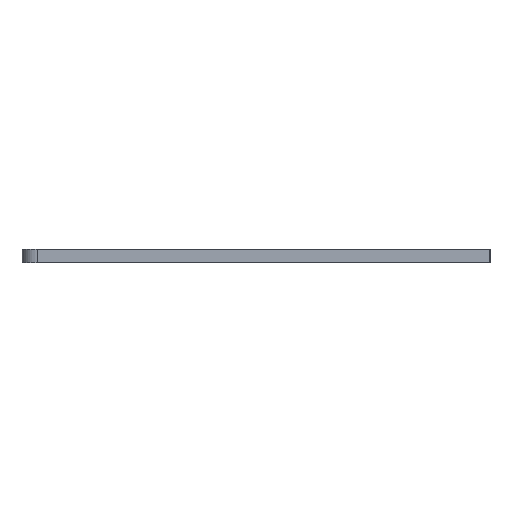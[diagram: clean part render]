
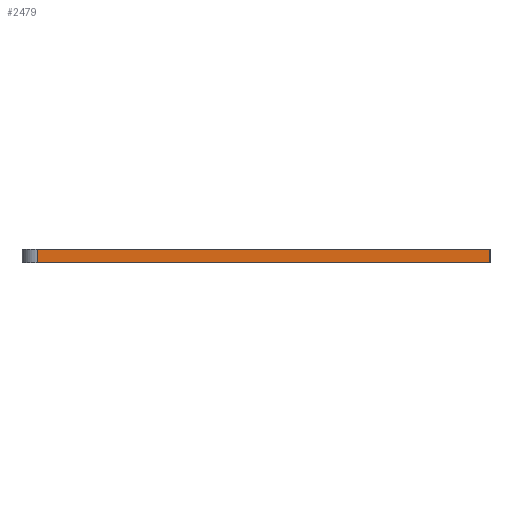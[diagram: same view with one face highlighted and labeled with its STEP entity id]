
A CAD part, left-side view. The second image highlights one B-rep face of the part: STEP entity #2479.
In plain terms, the highlighted planar face has unit normal (-1, 0, 0).
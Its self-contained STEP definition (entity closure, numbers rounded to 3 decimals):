
#21 = EDGE_CURVE('',#22,#24,#26,.T.);
#22 = VERTEX_POINT('',#23);
#23 = CARTESIAN_POINT('',(0.,190.2,52.));
#24 = VERTEX_POINT('',#25);
#25 = CARTESIAN_POINT('',(0.,277.,52.));
#26 = SURFACE_CURVE('',#27,(#31,#43),.PCURVE_S1.);
#27 = LINE('',#28,#29);
#28 = CARTESIAN_POINT('',(0.,0.,52.));
#29 = VECTOR('',#30,1.);
#30 = DIRECTION('',(0.,1.,0.));
#31 = PCURVE('',#32,#37);
#32 = PLANE('',#33);
#33 = AXIS2_PLACEMENT_3D('',#34,#35,#36);
#34 = CARTESIAN_POINT('',(0.,0.,52.));
#35 = DIRECTION('',(0.,0.,1.));
#36 = DIRECTION('',(1.,0.,0.));
#37 = DEFINITIONAL_REPRESENTATION('',(#38),#42);
#38 = LINE('',#39,#40);
#39 = CARTESIAN_POINT('',(0.,0.));
#40 = VECTOR('',#41,1.);
#41 = DIRECTION('',(0.,1.));
#42 = ( GEOMETRIC_REPRESENTATION_CONTEXT(2) 
PARAMETRIC_REPRESENTATION_CONTEXT() REPRESENTATION_CONTEXT('2D SPACE',''
  ) );
#43 = PCURVE('',#44,#49);
#44 = PLANE('',#45);
#45 = AXIS2_PLACEMENT_3D('',#46,#47,#48);
#46 = CARTESIAN_POINT('',(0.,0.,49.5));
#47 = DIRECTION('',(1.,0.,0.));
#48 = DIRECTION('',(0.,0.,1.));
#49 = DEFINITIONAL_REPRESENTATION('',(#50),#54);
#50 = LINE('',#51,#52);
#51 = CARTESIAN_POINT('',(2.5,0.));
#52 = VECTOR('',#53,1.);
#53 = DIRECTION('',(0.,-1.));
#54 = ( GEOMETRIC_REPRESENTATION_CONTEXT(2) 
PARAMETRIC_REPRESENTATION_CONTEXT() REPRESENTATION_CONTEXT('2D SPACE',''
  ) );
#71 = PLANE('',#72);
#72 = AXIS2_PLACEMENT_3D('',#73,#74,#75);
#73 = CARTESIAN_POINT('',(-1.,190.2,49.3));
#74 = DIRECTION('',(0.,1.,0.));
#75 = DIRECTION('',(0.,0.,1.));
#186 = CYLINDRICAL_SURFACE('',#187,3.);
#187 = AXIS2_PLACEMENT_3D('',#188,#189,#190);
#188 = CARTESIAN_POINT('',(3.,277.,49.5));
#189 = DIRECTION('',(0.,0.,1.));
#190 = DIRECTION('',(-1.,-0.,0.));
#2479 = ADVANCED_FACE('',(#2480),#44,.F.);
#2480 = FACE_BOUND('',#2481,.F.);
#2481 = EDGE_LOOP('',(#2482,#2503,#2531,#2552));
#2482 = ORIENTED_EDGE('',*,*,#2483,.F.);
#2483 = EDGE_CURVE('',#2484,#22,#2486,.T.);
#2484 = VERTEX_POINT('',#2485);
#2485 = CARTESIAN_POINT('',(0.,190.2,49.5));
#2486 = SURFACE_CURVE('',#2487,(#2491,#2497),.PCURVE_S1.);
#2487 = LINE('',#2488,#2489);
#2488 = CARTESIAN_POINT('',(0.,190.2,49.4));
#2489 = VECTOR('',#2490,1.);
#2490 = DIRECTION('',(0.,0.,1.));
#2491 = PCURVE('',#44,#2492);
#2492 = DEFINITIONAL_REPRESENTATION('',(#2493),#2496);
#2493 = B_SPLINE_CURVE_WITH_KNOTS('',1,(#2494,#2495),.UNSPECIFIED.,.F.,
  .F.,(2,2),(0.1,2.6),.PIECEWISE_BEZIER_KNOTS.);
#2494 = CARTESIAN_POINT('',(0.,-190.2));
#2495 = CARTESIAN_POINT('',(2.5,-190.2));
#2496 = ( GEOMETRIC_REPRESENTATION_CONTEXT(2) 
PARAMETRIC_REPRESENTATION_CONTEXT() REPRESENTATION_CONTEXT('2D SPACE',''
  ) );
#2497 = PCURVE('',#71,#2498);
#2498 = DEFINITIONAL_REPRESENTATION('',(#2499),#2502);
#2499 = B_SPLINE_CURVE_WITH_KNOTS('',1,(#2500,#2501),.UNSPECIFIED.,.F.,
  .F.,(2,2),(0.1,2.6),.PIECEWISE_BEZIER_KNOTS.);
#2500 = CARTESIAN_POINT('',(0.2,1.));
#2501 = CARTESIAN_POINT('',(2.7,1.));
#2502 = ( GEOMETRIC_REPRESENTATION_CONTEXT(2) 
PARAMETRIC_REPRESENTATION_CONTEXT() REPRESENTATION_CONTEXT('2D SPACE',''
  ) );
#2503 = ORIENTED_EDGE('',*,*,#2504,.T.);
#2504 = EDGE_CURVE('',#2484,#2505,#2507,.T.);
#2505 = VERTEX_POINT('',#2506);
#2506 = CARTESIAN_POINT('',(0.,277.,49.5));
#2507 = SURFACE_CURVE('',#2508,(#2512,#2519),.PCURVE_S1.);
#2508 = LINE('',#2509,#2510);
#2509 = CARTESIAN_POINT('',(0.,0.,49.5));
#2510 = VECTOR('',#2511,1.);
#2511 = DIRECTION('',(0.,1.,0.));
#2512 = PCURVE('',#44,#2513);
#2513 = DEFINITIONAL_REPRESENTATION('',(#2514),#2518);
#2514 = LINE('',#2515,#2516);
#2515 = CARTESIAN_POINT('',(0.,0.));
#2516 = VECTOR('',#2517,1.);
#2517 = DIRECTION('',(0.,-1.));
#2518 = ( GEOMETRIC_REPRESENTATION_CONTEXT(2) 
PARAMETRIC_REPRESENTATION_CONTEXT() REPRESENTATION_CONTEXT('2D SPACE',''
  ) );
#2519 = PCURVE('',#2520,#2525);
#2520 = PLANE('',#2521);
#2521 = AXIS2_PLACEMENT_3D('',#2522,#2523,#2524);
#2522 = CARTESIAN_POINT('',(0.,0.,49.5));
#2523 = DIRECTION('',(0.,0.,1.));
#2524 = DIRECTION('',(1.,0.,0.));
#2525 = DEFINITIONAL_REPRESENTATION('',(#2526),#2530);
#2526 = LINE('',#2527,#2528);
#2527 = CARTESIAN_POINT('',(0.,0.));
#2528 = VECTOR('',#2529,1.);
#2529 = DIRECTION('',(0.,1.));
#2530 = ( GEOMETRIC_REPRESENTATION_CONTEXT(2) 
PARAMETRIC_REPRESENTATION_CONTEXT() REPRESENTATION_CONTEXT('2D SPACE',''
  ) );
#2531 = ORIENTED_EDGE('',*,*,#2532,.T.);
#2532 = EDGE_CURVE('',#2505,#24,#2533,.T.);
#2533 = SURFACE_CURVE('',#2534,(#2538,#2545),.PCURVE_S1.);
#2534 = LINE('',#2535,#2536);
#2535 = CARTESIAN_POINT('',(0.,277.,49.5));
#2536 = VECTOR('',#2537,1.);
#2537 = DIRECTION('',(0.,0.,1.));
#2538 = PCURVE('',#44,#2539);
#2539 = DEFINITIONAL_REPRESENTATION('',(#2540),#2544);
#2540 = LINE('',#2541,#2542);
#2541 = CARTESIAN_POINT('',(0.,-277.));
#2542 = VECTOR('',#2543,1.);
#2543 = DIRECTION('',(1.,0.));
#2544 = ( GEOMETRIC_REPRESENTATION_CONTEXT(2) 
PARAMETRIC_REPRESENTATION_CONTEXT() REPRESENTATION_CONTEXT('2D SPACE',''
  ) );
#2545 = PCURVE('',#186,#2546);
#2546 = DEFINITIONAL_REPRESENTATION('',(#2547),#2551);
#2547 = LINE('',#2548,#2549);
#2548 = CARTESIAN_POINT('',(-0.,0.));
#2549 = VECTOR('',#2550,1.);
#2550 = DIRECTION('',(-0.,1.));
#2551 = ( GEOMETRIC_REPRESENTATION_CONTEXT(2) 
PARAMETRIC_REPRESENTATION_CONTEXT() REPRESENTATION_CONTEXT('2D SPACE',''
  ) );
#2552 = ORIENTED_EDGE('',*,*,#21,.F.);
